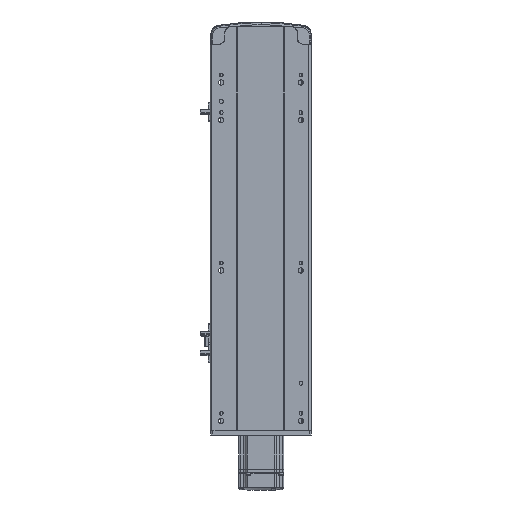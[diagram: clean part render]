
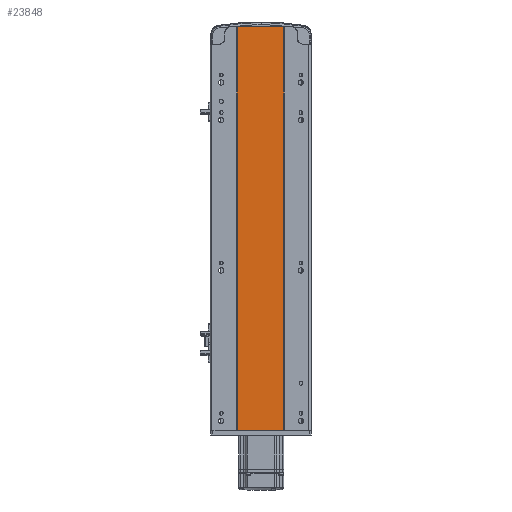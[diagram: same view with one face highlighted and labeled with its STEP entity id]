
A CAD part, front view. The second image highlights one B-rep face of the part: STEP entity #23848.
In plain terms, the highlighted planar face has unit normal (0, -1, 0).
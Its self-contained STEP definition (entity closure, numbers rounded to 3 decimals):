
#1557 = DIRECTION ( 'NONE',  ( -1., 0., 0. ) ) ;
#1768 = EDGE_CURVE ( 'NONE', #6210, #54844, #52882, .T. ) ;
#2330 = VERTEX_POINT ( 'NONE', #23478 ) ;
#5476 = EDGE_CURVE ( 'NONE', #2330, #46335, #50467, .T. ) ;
#6210 = VERTEX_POINT ( 'NONE', #21756 ) ;
#7132 = VECTOR ( 'NONE', #18716, 1000. ) ;
#9448 = CARTESIAN_POINT ( 'NONE',  ( -32., 1., 537. ) ) ;
#12675 = DIRECTION ( 'NONE',  ( 1., 0., 0. ) ) ;
#13247 = LINE ( 'NONE', #14318, #7132 ) ;
#14318 = CARTESIAN_POINT ( 'NONE',  ( -32., 1., 0. ) ) ;
#18411 = DIRECTION ( 'NONE',  ( 0., 1., 0. ) ) ;
#18716 = DIRECTION ( 'NONE',  ( 1., 0., 0. ) ) ;
#21756 = CARTESIAN_POINT ( 'NONE',  ( -32., 1., 537. ) ) ;
#23478 = CARTESIAN_POINT ( 'NONE',  ( 30., 1., 537. ) ) ;
#23848 = ADVANCED_FACE ( 'NONE', ( #29615 ), #48851, .F. ) ;
#27596 = DIRECTION ( 'NONE',  ( 0., 0., -1. ) ) ;
#28222 = CARTESIAN_POINT ( 'NONE',  ( 30., 1., 537. ) ) ;
#29615 = FACE_OUTER_BOUND ( 'NONE', #47001, .T. ) ;
#31668 = CARTESIAN_POINT ( 'NONE',  ( -32., 1., 537. ) ) ;
#31853 = ORIENTED_EDGE ( 'NONE', *, *, #52744, .F. ) ;
#35213 = AXIS2_PLACEMENT_3D ( 'NONE', #9448, #18411, #1557 ) ;
#35933 = ORIENTED_EDGE ( 'NONE', *, *, #1768, .T. ) ;
#38678 = ORIENTED_EDGE ( 'NONE', *, *, #5476, .F. ) ;
#41546 = LINE ( 'NONE', #52132, #44267 ) ;
#42182 = CARTESIAN_POINT ( 'NONE',  ( 30., 1., 0. ) ) ;
#44267 = VECTOR ( 'NONE', #12675, 1000. ) ;
#44691 = CARTESIAN_POINT ( 'NONE',  ( -32., 1., 0. ) ) ;
#46035 = VECTOR ( 'NONE', #27596, 1000. ) ;
#46335 = VERTEX_POINT ( 'NONE', #42182 ) ;
#46549 = EDGE_CURVE ( 'NONE', #54844, #46335, #13247, .T. ) ;
#47001 = EDGE_LOOP ( 'NONE', ( #49033, #38678, #31853, #35933 ) ) ;
#47719 = VECTOR ( 'NONE', #54608, 1000. ) ;
#48851 = PLANE ( 'NONE',  #35213 ) ;
#49033 = ORIENTED_EDGE ( 'NONE', *, *, #46549, .T. ) ;
#50467 = LINE ( 'NONE', #28222, #47719 ) ;
#52132 = CARTESIAN_POINT ( 'NONE',  ( -32., 1., 537. ) ) ;
#52744 = EDGE_CURVE ( 'NONE', #6210, #2330, #41546, .T. ) ;
#52882 = LINE ( 'NONE', #31668, #46035 ) ;
#54608 = DIRECTION ( 'NONE',  ( 0., 0., -1. ) ) ;
#54844 = VERTEX_POINT ( 'NONE', #44691 ) ;
